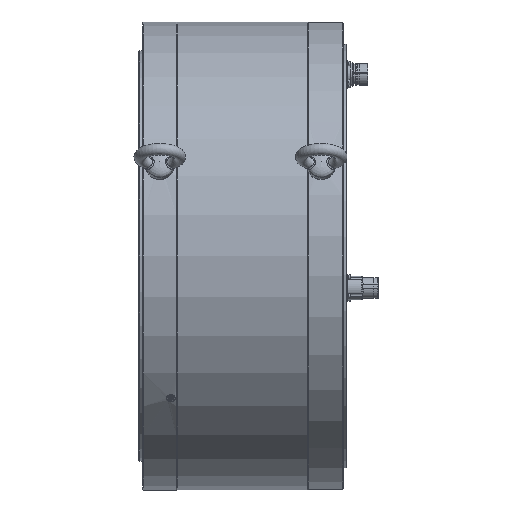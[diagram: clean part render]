
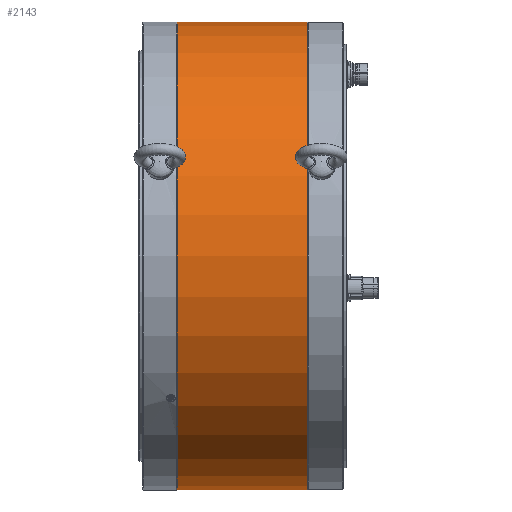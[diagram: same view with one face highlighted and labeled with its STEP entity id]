
A CAD part, front view. The second image highlights one B-rep face of the part: STEP entity #2143.
In plain terms, the highlighted cylindrical face has radius 245 mm (diameter 490 mm), a full revolution.
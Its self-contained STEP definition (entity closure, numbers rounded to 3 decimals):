
#2143 = ADVANCED_FACE( '', ( #4577, #4578 ), #4579, .T. );
#4577 = FACE_OUTER_BOUND( '', #7769, .T. );
#4578 = FACE_OUTER_BOUND( '', #7770, .T. );
#4579 = CYLINDRICAL_SURFACE( '', #7771, 245. );
#7769 = EDGE_LOOP( '', ( #12034 ) );
#7770 = EDGE_LOOP( '', ( #12035 ) );
#7771 = AXIS2_PLACEMENT_3D( '', #12036, #12037, #12038 );
#12034 = ORIENTED_EDGE( '', *, *, #14853, .T. );
#12035 = ORIENTED_EDGE( '', *, *, #14040, .T. );
#12036 = CARTESIAN_POINT( '', ( -60., 0., 0. ) );
#12037 = DIRECTION( '', ( 1., 0., 0. ) );
#12038 = DIRECTION( '', ( 0., 0., 1. ) );
#14040 = EDGE_CURVE( '', #16818, #16818, #16819, .F. );
#14853 = EDGE_CURVE( '', #18009, #18009, #18010, .F. );
#16818 = VERTEX_POINT( '', #19421 );
#16819 = CIRCLE( '', #19422, 245. );
#18009 = VERTEX_POINT( '', #21886 );
#18010 = CIRCLE( '', #21887, 245. );
#19421 = CARTESIAN_POINT( '', ( 136.5, 0., -245. ) );
#19422 = AXIS2_PLACEMENT_3D( '', #23588, #23589, #23590 );
#21886 = CARTESIAN_POINT( '', ( 0.5, 0., 245. ) );
#21887 = AXIS2_PLACEMENT_3D( '', #24840, #24841, #24842 );
#23588 = CARTESIAN_POINT( '', ( 136.5, 0., 0. ) );
#23589 = DIRECTION( '', ( 1., 0., 0. ) );
#23590 = DIRECTION( '', ( 0., 0., -1. ) );
#24840 = CARTESIAN_POINT( '', ( 0.5, 0., 0. ) );
#24841 = DIRECTION( '', ( -1., 0., 0. ) );
#24842 = DIRECTION( '', ( 0., 0., 1. ) );
